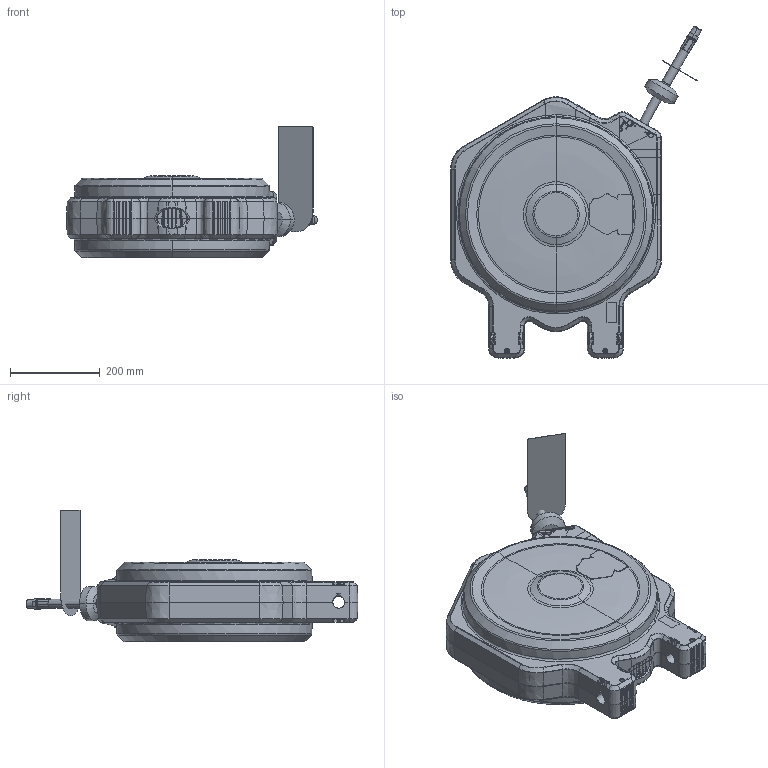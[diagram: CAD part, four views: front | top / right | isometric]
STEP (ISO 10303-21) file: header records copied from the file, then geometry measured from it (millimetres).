
FILE_DESCRIPTION((''),'2;1');
FILE_NAME('24J126-EN-E_PRT','2019-12-31T17:36:42',('qusrh3'),(''),'CREO PARAMETRIC BY PTC INC, 2019030','CREO PARAMETRIC BY PTC INC, 2019030','');
FILE_SCHEMA(('CONFIG_CONTROL_DESIGN'));
Products named in the file (1): 24J126-EN-E_PRT
Bounding box: 558.92 x 739.79 x 293.86 mm (x, y, z)
Surface area: 3158236.2 mm2 (no closed solid volume)
Topology: 0 solids, 289 shells, 3459 faces, 11616 edges, 8084 vertices
Faces by surface type: plane 1180, cylinder 835, bspline 606, torus 412, cone 343, sphere 73, extrusion 10
Entity records: 158552 total; most frequent: CARTESIAN_POINT 66722, ORIENTED_EDGE 18113, DIRECTION 17712, EDGE_CURVE 11606, VERTEX_POINT 8079, AXIS2_PLACEMENT_3D 6418, VECTOR 4876, LINE 4866
